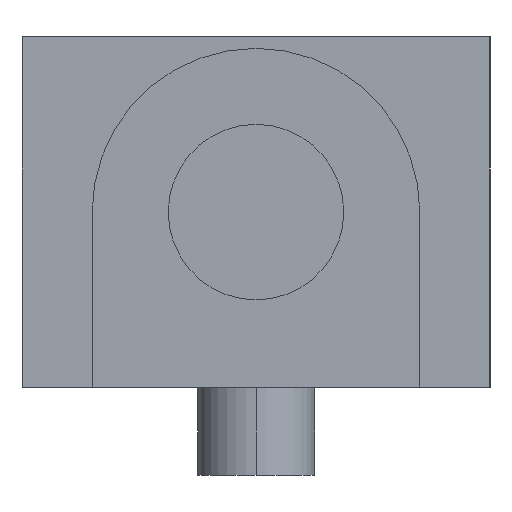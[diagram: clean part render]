
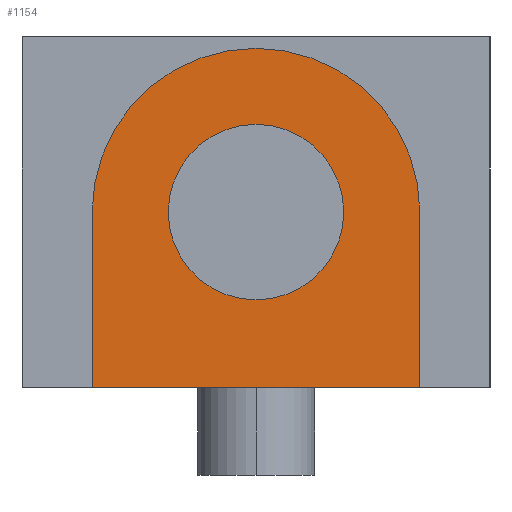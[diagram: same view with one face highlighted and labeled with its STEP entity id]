
A CAD part, left-side view. The second image highlights one B-rep face of the part: STEP entity #1154.
In plain terms, the highlighted planar face has unit normal (-1, 0, 0).
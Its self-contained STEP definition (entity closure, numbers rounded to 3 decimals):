
#6 = ORIENTED_EDGE ( 'NONE', *, *, #1551, .T. ) ;
#24 = EDGE_CURVE ( 'NONE', #2297, #572, #1452, .T. ) ;
#44 = ORIENTED_EDGE ( 'NONE', *, *, #24, .F. ) ;
#131 = LINE ( 'NONE', #2122, #690 ) ;
#164 = VERTEX_POINT ( 'NONE', #1521 ) ;
#210 = ORIENTED_EDGE ( 'NONE', *, *, #279, .T. ) ;
#265 = AXIS2_PLACEMENT_3D ( 'NONE', #1494, #1517, #2223 ) ;
#279 = EDGE_CURVE ( 'NONE', #164, #844, #508, .T. ) ;
#296 = DIRECTION ( 'NONE',  ( -1., 0., 0. ) ) ;
#299 = DIRECTION ( 'NONE',  ( 0., 0., 1. ) ) ;
#396 = CARTESIAN_POINT ( 'NONE',  ( -1.5, -1.2, 3. ) ) ;
#402 = CARTESIAN_POINT ( 'NONE',  ( -1.5, -5.5, 3. ) ) ;
#452 = CARTESIAN_POINT ( 'NONE',  ( -1.5, -6.8, 3. ) ) ;
#461 = ORIENTED_EDGE ( 'NONE', *, *, #1816, .T. ) ;
#508 = LINE ( 'NONE', #1232, #1782 ) ;
#572 = VERTEX_POINT ( 'NONE', #402 ) ;
#619 = LINE ( 'NONE', #2272, #2100 ) ;
#658 = FACE_BOUND ( 'NONE', #2082, .T. ) ;
#675 = VERTEX_POINT ( 'NONE', #452 ) ;
#683 = DIRECTION ( 'NONE',  ( 0., -1., 0. ) ) ;
#690 = VECTOR ( 'NONE', #299, 1000. ) ;
#740 = CARTESIAN_POINT ( 'NONE',  ( -1.5, -4., 3. ) ) ;
#761 = CARTESIAN_POINT ( 'NONE',  ( -1.5, -6.8, 0. ) ) ;
#844 = VERTEX_POINT ( 'NONE', #761 ) ;
#938 = AXIS2_PLACEMENT_3D ( 'NONE', #1938, #296, #1760 ) ;
#1154 = ADVANCED_FACE ( 'NONE', ( #1691, #658 ), #1205, .T. ) ;
#1205 = PLANE ( 'NONE',  #938 ) ;
#1232 = CARTESIAN_POINT ( 'NONE',  ( -1.5, -5.7, 0. ) ) ;
#1296 = CIRCLE ( 'NONE', #265, 1.5 ) ;
#1348 = DIRECTION ( 'NONE',  ( 0., 0., -1. ) ) ;
#1361 = VERTEX_POINT ( 'NONE', #396 ) ;
#1369 = CARTESIAN_POINT ( 'NONE',  ( -1.5, -2.5, 3. ) ) ;
#1415 = DIRECTION ( 'NONE',  ( 0., -1., 0. ) ) ;
#1452 = CIRCLE ( 'NONE', #1871, 1.5 ) ;
#1494 = CARTESIAN_POINT ( 'NONE',  ( -1.5, -4., 3. ) ) ;
#1517 = DIRECTION ( 'NONE',  ( -1., 0., 0. ) ) ;
#1521 = CARTESIAN_POINT ( 'NONE',  ( -1.5, -1.2, 0. ) ) ;
#1551 = EDGE_CURVE ( 'NONE', #844, #675, #131, .T. ) ;
#1690 = ORIENTED_EDGE ( 'NONE', *, *, #2017, .F. ) ;
#1691 = FACE_OUTER_BOUND ( 'NONE', #1929, .T. ) ;
#1760 = DIRECTION ( 'NONE',  ( 0., 1., 0. ) ) ;
#1769 = CIRCLE ( 'NONE', #2303, 2.8 ) ;
#1782 = VECTOR ( 'NONE', #1415, 1000. ) ;
#1783 = EDGE_CURVE ( 'NONE', #572, #2297, #1296, .T. ) ;
#1816 = EDGE_CURVE ( 'NONE', #1361, #164, #619, .T. ) ;
#1871 = AXIS2_PLACEMENT_3D ( 'NONE', #2326, #2142, #683 ) ;
#1929 = EDGE_LOOP ( 'NONE', ( #461, #210, #6, #1690 ) ) ;
#1938 = CARTESIAN_POINT ( 'NONE',  ( -1.5, -4., 3. ) ) ;
#1974 = DIRECTION ( 'NONE',  ( 0., -1., 0. ) ) ;
#2017 = EDGE_CURVE ( 'NONE', #1361, #675, #1769, .T. ) ;
#2082 = EDGE_LOOP ( 'NONE', ( #44, #2340 ) ) ;
#2100 = VECTOR ( 'NONE', #1348, 1000. ) ;
#2122 = CARTESIAN_POINT ( 'NONE',  ( -1.5, -6.8, 0. ) ) ;
#2142 = DIRECTION ( 'NONE',  ( -1., 0., 0. ) ) ;
#2186 = DIRECTION ( 'NONE',  ( 1., 0., 0. ) ) ;
#2223 = DIRECTION ( 'NONE',  ( 0., -1., 0. ) ) ;
#2272 = CARTESIAN_POINT ( 'NONE',  ( -1.5, -1.2, 6. ) ) ;
#2297 = VERTEX_POINT ( 'NONE', #1369 ) ;
#2303 = AXIS2_PLACEMENT_3D ( 'NONE', #740, #2186, #1974 ) ;
#2326 = CARTESIAN_POINT ( 'NONE',  ( -1.5, -4., 3. ) ) ;
#2340 = ORIENTED_EDGE ( 'NONE', *, *, #1783, .F. ) ;
